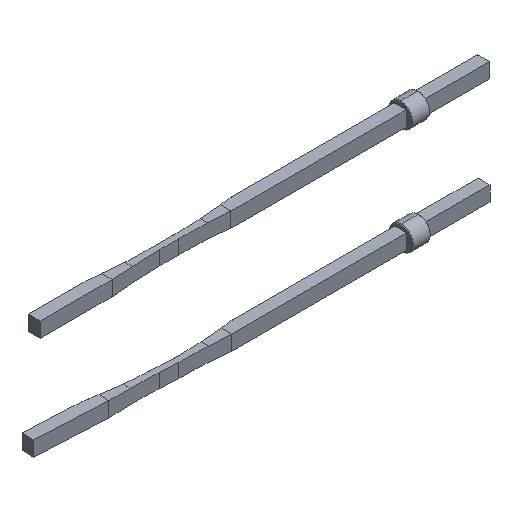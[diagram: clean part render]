
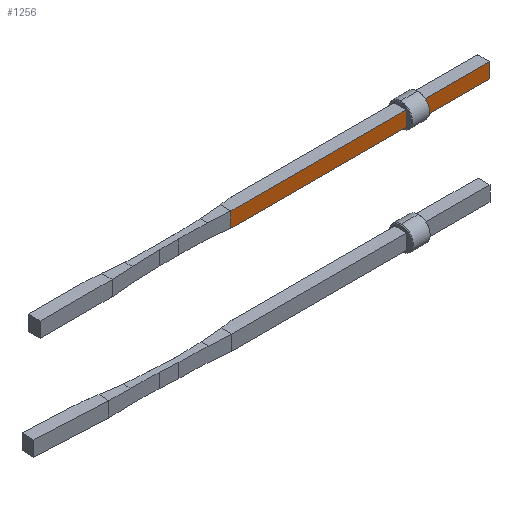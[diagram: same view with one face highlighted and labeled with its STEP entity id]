
A CAD part, isometric view. The second image highlights one B-rep face of the part: STEP entity #1256.
In plain terms, the highlighted planar face has unit normal (0, -1, 0).
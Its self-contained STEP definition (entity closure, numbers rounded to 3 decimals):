
#634 = CARTESIAN_POINT ( 'NONE',  ( 1094.523, 1497.779, 5. ) ) ;
#636 = DIRECTION ( 'NONE',  ( 1., 0., 0. ) ) ;
#649 = LINE ( 'NONE', #634, #942 ) ;
#929 = VECTOR ( 'NONE', #1420, 1000. ) ;
#932 = VECTOR ( 'NONE', #1466, 1000. ) ;
#936 = VECTOR ( 'NONE', #1439, 1000. ) ;
#942 = VECTOR ( 'NONE', #636, 1000. ) ;
#1108 = EDGE_LOOP ( 'NONE', ( #2198, #2180, #2197, #2196 ) ) ;
#1256 = ADVANCED_FACE ( 'NONE', ( #1533 ), #1542, .F. ) ;
#1309 = AXIS2_PLACEMENT_3D ( 'NONE', #1546, #1532, #1547 ) ;
#1418 = CARTESIAN_POINT ( 'NONE',  ( 1094.523, 1497.779, 5. ) ) ;
#1420 = DIRECTION ( 'NONE',  ( 0., 0., -1. ) ) ;
#1427 = LINE ( 'NONE', #1418, #929 ) ;
#1439 = DIRECTION ( 'NONE',  ( 0., 0., -1. ) ) ;
#1442 = LINE ( 'NONE', #1475, #932 ) ;
#1466 = DIRECTION ( 'NONE',  ( 1., 0., 0. ) ) ;
#1467 = LINE ( 'NONE', #1471, #936 ) ;
#1471 = CARTESIAN_POINT ( 'NONE',  ( 1180.842, 1497.779, 5. ) ) ;
#1475 = CARTESIAN_POINT ( 'NONE',  ( 1094.523, 1497.779, 0. ) ) ;
#1532 = DIRECTION ( 'NONE',  ( 0., 1., 0. ) ) ;
#1533 = FACE_OUTER_BOUND ( 'NONE', #1108, .T. ) ;
#1542 = PLANE ( 'NONE',  #1309 ) ;
#1546 = CARTESIAN_POINT ( 'NONE',  ( 1094.523, 1497.779, 5. ) ) ;
#1547 = DIRECTION ( 'NONE',  ( -1., 0., 0. ) ) ;
#1595 = CARTESIAN_POINT ( 'NONE',  ( 1094.523, 1497.779, 5. ) ) ;
#1622 = CARTESIAN_POINT ( 'NONE',  ( 1094.523, 1497.779, 0. ) ) ;
#1648 = CARTESIAN_POINT ( 'NONE',  ( 1180.842, 1497.779, 5. ) ) ;
#1670 = CARTESIAN_POINT ( 'NONE',  ( 1180.842, 1497.779, 0. ) ) ;
#2106 = VERTEX_POINT ( 'NONE', #1595 ) ;
#2148 = VERTEX_POINT ( 'NONE', #1622 ) ;
#2153 = VERTEX_POINT ( 'NONE', #1648 ) ;
#2176 = VERTEX_POINT ( 'NONE', #1670 ) ;
#2180 = ORIENTED_EDGE ( 'NONE', *, *, #2416, .F. ) ;
#2196 = ORIENTED_EDGE ( 'NONE', *, *, #2399, .T. ) ;
#2197 = ORIENTED_EDGE ( 'NONE', *, *, #2423, .F. ) ;
#2198 = ORIENTED_EDGE ( 'NONE', *, *, #2412, .T. ) ;
#2399 = EDGE_CURVE ( 'NONE', #2106, #2148, #1427, .T. ) ;
#2412 = EDGE_CURVE ( 'NONE', #2148, #2176, #1442, .T. ) ;
#2416 = EDGE_CURVE ( 'NONE', #2153, #2176, #1467, .T. ) ;
#2423 = EDGE_CURVE ( 'NONE', #2106, #2153, #649, .T. ) ;
